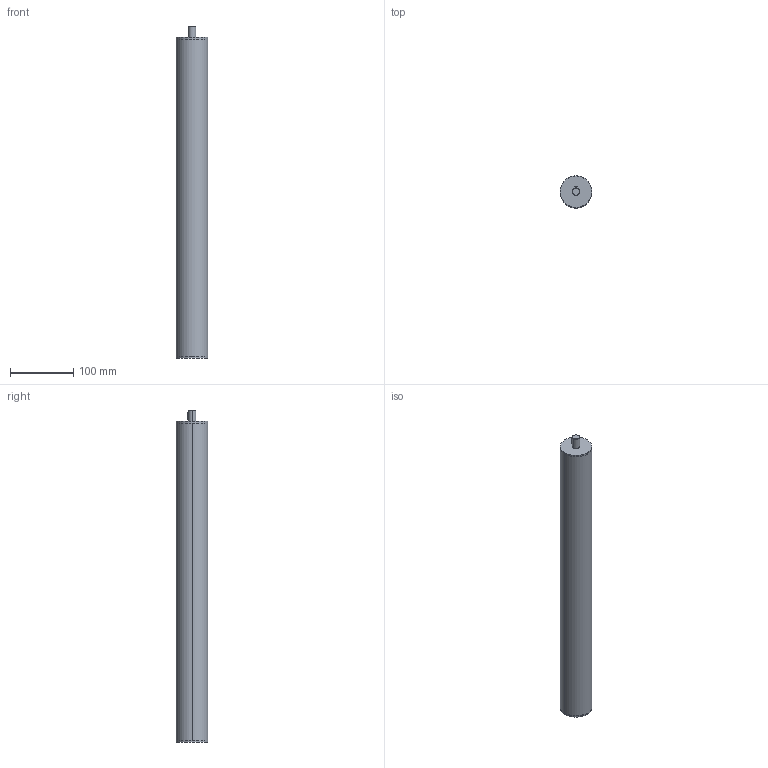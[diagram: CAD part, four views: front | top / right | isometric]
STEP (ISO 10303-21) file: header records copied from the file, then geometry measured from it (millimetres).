
FILE_DESCRIPTION (( 'STEP AP214' ), '1' );
FILE_NAME ('291-50-265-L1-SCR.step', '2023-08-30T05:21:26', ( '' ), ( '' ), 'SwSTEP 2.0', 'SolidWorks 2022', '' );
FILE_SCHEMA (( 'AUTOMOTIVE_DESIGN' ));
Length unit declared in the file: millimetre
Products named in the file (3): 291-50-265-L1-SCR; WB2910 Rund^WBVES_50-265-1; WB2910 mutter^WBVES_Tr20-M6
Assembly tree (2 placements, depth 2):
  291-50-265-L1-SCR
    WB2910 mutter^WBVES_Tr20-M6
    WB2910 Rund^WBVES_50-265-1
Bounding box: 50 x 50 x 523 mm (x, y, z)
Volume: 380469.1 mm3; surface area: 200416.7 mm2
Topology: 2 solids, 2 shells, 48 faces, 112 edges, 70 vertices
Faces by surface type: cylinder 25, plane 17, cone 6
Entity records: 1847 total; most frequent: CARTESIAN_POINT 426, DIRECTION 246, ORIENTED_EDGE 216, EDGE_CURVE 108, AXIS2_PLACEMENT_3D 96, VERTEX_POINT 70, EDGE_LOOP 58, VECTOR 54
